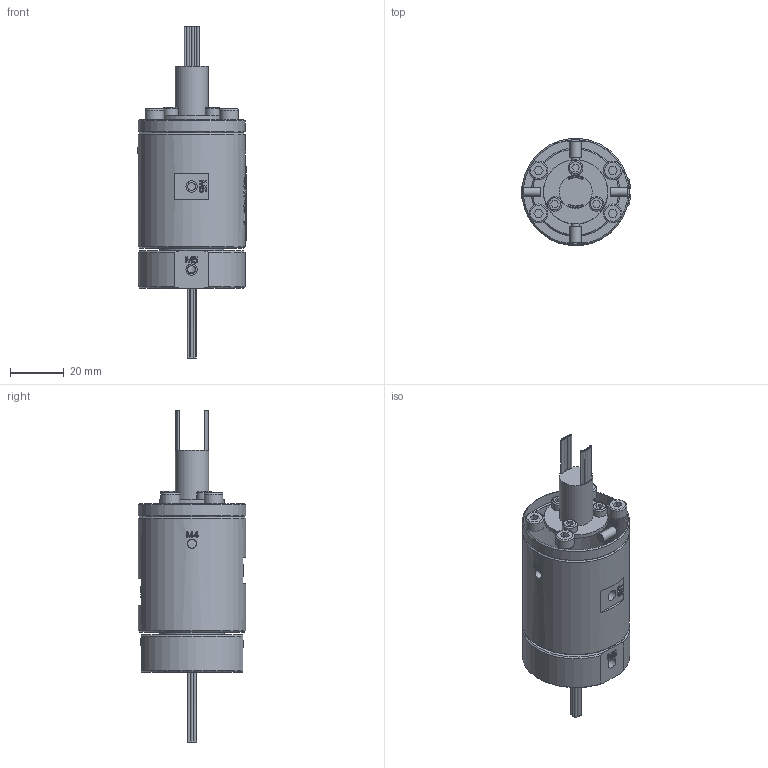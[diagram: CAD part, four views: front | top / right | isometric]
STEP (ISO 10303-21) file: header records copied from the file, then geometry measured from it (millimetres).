
FILE_DESCRIPTION(/* description */ (''),/* implementation_level */ '2;1');
FILE_NAME(/* name */ 'HQ02005-12M.stp',/* time_stamp */ '2025-09-01T09:52:19+08:00',/* author */ (''),/* organization */ (''),/* preprocessor_version */ 'ST-DEVELOPER v16.7',/* originating_system */ 'SIEMENS PLM Software NX 12.0',/* authorisation */ '');
FILE_SCHEMA (('AUTOMOTIVE_DESIGN { 1 0 10303 214 3 1 1 1 }'));
Length unit declared in the file: millimetre
Products named in the file (1): Admi1DF097DFvvt9
Bounding box: 40.68 x 40 x 123.9 mm (x, y, z)
Volume: 80513.4 mm3; surface area: 16809.6 mm2
Topology: 1 solids, 9 shells, 1029 faces, 2714 edges, 1808 vertices
Faces by surface type: plane 488, extrusion 385, cylinder 86, bspline 42, cone 21, torus 7
Full cylindrical faces by diameter (mm): 0.8 x24, 3 x7, 3.4 x9, 4 x6, 4.1 x2, 4.2 x6, 5 x1, 5.5 x3, 6 x1, 7 x4, 12.4 x1, 23.9 x1, 24 x1, 32 x1, 40 x2
Entity records: 37892 total; most frequent: CARTESIAN_POINT 16156, ORIENTED_EDGE 5148, DIRECTION 2807, EDGE_CURVE 2574, B_SPLINE_CURVE_WITH_KNOTS 2082, VERTEX_POINT 1767, EDGE_LOOP 1249, ADVANCED_FACE 1029
